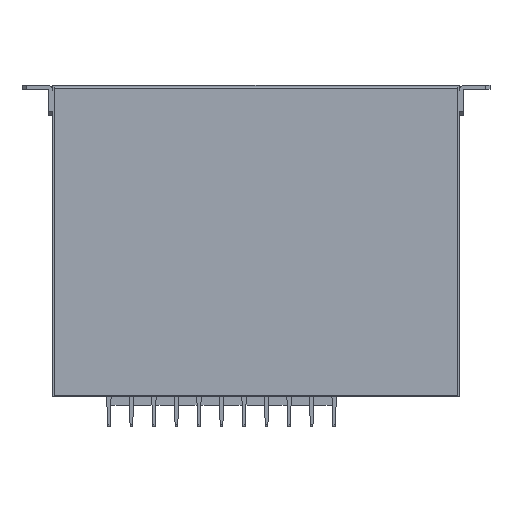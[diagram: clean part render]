
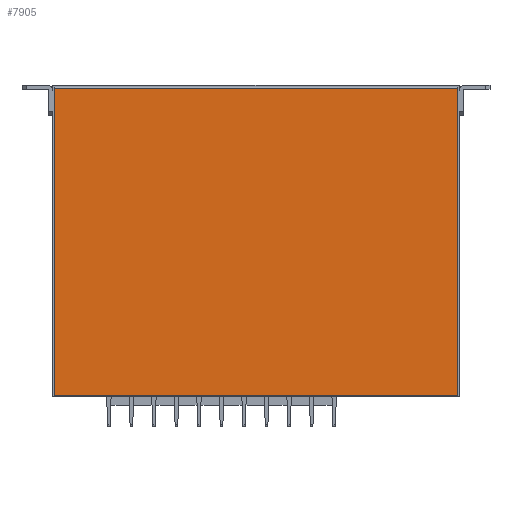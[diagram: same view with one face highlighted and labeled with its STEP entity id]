
A CAD part, front view. The second image highlights one B-rep face of the part: STEP entity #7905.
In plain terms, the highlighted planar face has unit normal (0, -1, 0).
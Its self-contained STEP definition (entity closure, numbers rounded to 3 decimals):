
#192 = FACE_OUTER_BOUND ( 'NONE', #8431, .T. ) ;
#216 = PLANE ( 'NONE',  #2385 ) ;
#322 = VECTOR ( 'NONE', #1591, 1000. ) ;
#368 = VERTEX_POINT ( 'NONE', #7758 ) ;
#864 = CARTESIAN_POINT ( 'NONE',  ( -145.167, 10.563, -75.5 ) ) ;
#895 = VERTEX_POINT ( 'NONE', #6178 ) ;
#905 = DIRECTION ( 'NONE',  ( -1., 0., 0. ) ) ;
#1539 = CARTESIAN_POINT ( 'NONE',  ( -145.167, 10.563, 75.5 ) ) ;
#1591 = DIRECTION ( 'NONE',  ( -1., 0., 0. ) ) ;
#2079 = CARTESIAN_POINT ( 'NONE',  ( -145.167, 10.563, 76. ) ) ;
#2153 = LINE ( 'NONE', #864, #322 ) ;
#2385 = AXIS2_PLACEMENT_3D ( 'NONE', #4322, #5011, #905 ) ;
#2721 = DIRECTION ( 'NONE',  ( 0., 0., -1. ) ) ;
#2882 = EDGE_CURVE ( 'NONE', #895, #368, #2153, .T. ) ;
#3666 = VERTEX_POINT ( 'NONE', #1539 ) ;
#3733 = VECTOR ( 'NONE', #8045, 1000. ) ;
#3915 = EDGE_CURVE ( 'NONE', #895, #8726, #7382, .T. ) ;
#4106 = ORIENTED_EDGE ( 'NONE', *, *, #2882, .F. ) ;
#4322 = CARTESIAN_POINT ( 'NONE',  ( -145.167, 10.563, 76. ) ) ;
#4370 = LINE ( 'NONE', #4670, #7794 ) ;
#4670 = CARTESIAN_POINT ( 'NONE',  ( 52.833, 10.563, 75.5 ) ) ;
#4911 = VECTOR ( 'NONE', #2721, 1000. ) ;
#5011 = DIRECTION ( 'NONE',  ( 0., -1., 0. ) ) ;
#6050 = DIRECTION ( 'NONE',  ( 1., 0., 0. ) ) ;
#6178 = CARTESIAN_POINT ( 'NONE',  ( 52.833, 10.563, -75.5 ) ) ;
#6428 = ORIENTED_EDGE ( 'NONE', *, *, #3915, .T. ) ;
#6753 = ORIENTED_EDGE ( 'NONE', *, *, #7657, .F. ) ;
#7211 = ORIENTED_EDGE ( 'NONE', *, *, #7774, .T. ) ;
#7348 = CARTESIAN_POINT ( 'NONE',  ( 52.833, 10.563, 76. ) ) ;
#7382 = LINE ( 'NONE', #7348, #3733 ) ;
#7657 = EDGE_CURVE ( 'NONE', #3666, #8726, #4370, .T. ) ;
#7758 = CARTESIAN_POINT ( 'NONE',  ( -145.167, 10.563, -75.5 ) ) ;
#7774 = EDGE_CURVE ( 'NONE', #3666, #368, #8558, .T. ) ;
#7794 = VECTOR ( 'NONE', #6050, 1000. ) ;
#7905 = ADVANCED_FACE ( 'NONE', ( #192 ), #216, .T. ) ;
#8045 = DIRECTION ( 'NONE',  ( 0., 0., 1. ) ) ;
#8431 = EDGE_LOOP ( 'NONE', ( #7211, #4106, #6428, #6753 ) ) ;
#8558 = LINE ( 'NONE', #2079, #4911 ) ;
#8726 = VERTEX_POINT ( 'NONE', #8768 ) ;
#8768 = CARTESIAN_POINT ( 'NONE',  ( 52.833, 10.563, 75.5 ) ) ;
